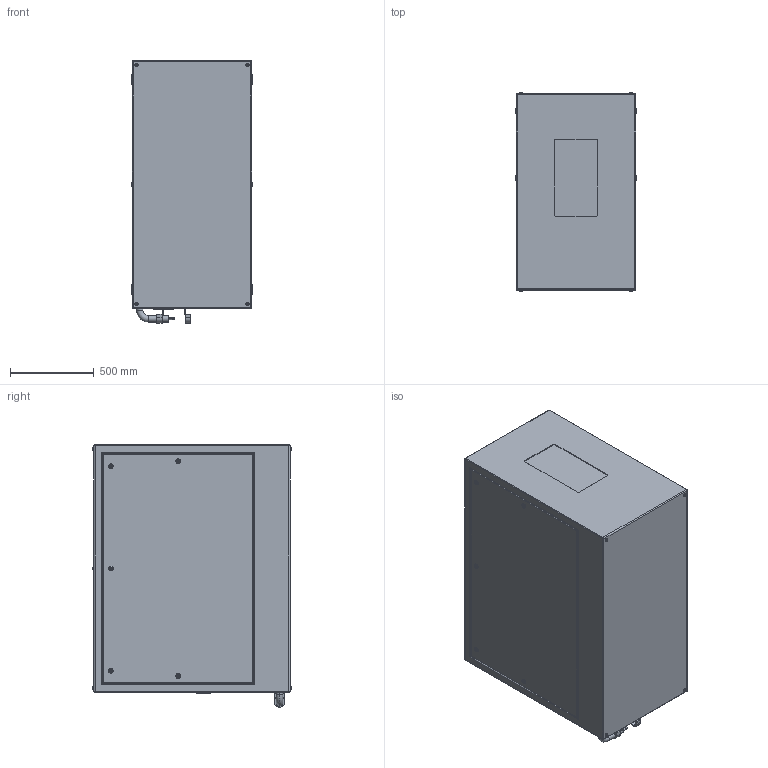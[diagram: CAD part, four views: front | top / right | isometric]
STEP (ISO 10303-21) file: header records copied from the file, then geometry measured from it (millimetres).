
FILE_DESCRIPTION (( 'STEP AP214' ), '1' );
FILE_NAME ('Oasis 59.322.P R02.STEP', '2022-08-27T16:12:24', ( '' ), ( '' ), 'SwSTEP 2.0', 'SolidWorks 2020', '' );
FILE_SCHEMA (( 'AUTOMOTIVE_DESIGN' ));
Length unit declared in the file: inch
Products named in the file (1): Oasis 59.322.P R02
Bounding box: 723.9 x 1185.67 x 1562.1 mm (x, y, z)
Volume: 1223018353 mm3; surface area: 7785351.7 mm2
Topology: 2 solids, 8 shells, 555 faces, 1265 edges, 802 vertices
Faces by surface type: plane 307, cylinder 186, torus 54, bspline 8
Entity records: 21388 total; most frequent: CARTESIAN_POINT 3135, DIRECTION 2763, ORIENTED_EDGE 2514, EDGE_CURVE 1257, AXIS2_PLACEMENT_3D 990, VERTEX_POINT 802, VECTOR 783, LINE 783
